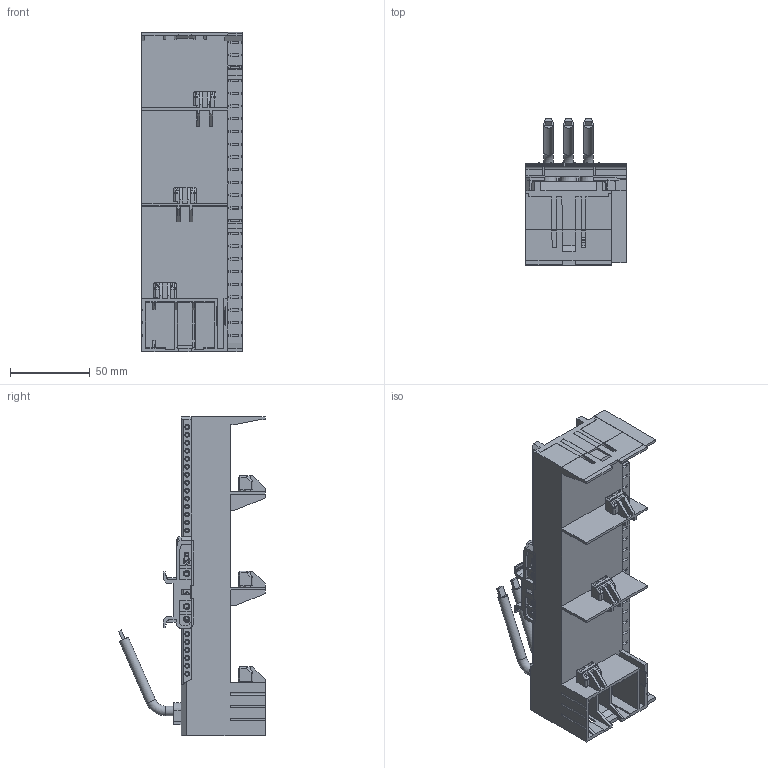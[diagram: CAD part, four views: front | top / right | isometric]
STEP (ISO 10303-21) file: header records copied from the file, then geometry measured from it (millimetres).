
FILE_DESCRIPTION (( 'STEP AP203' ), '1' );
FILE_NAME ('55368.STEP', '2021-08-18T05:47:23', ( '' ), ( '' ), 'SwSTEP 2.0', 'SolidWorks 2017', '' );
FILE_SCHEMA (( 'CONFIG_CONTROL_DESIGN' ));
Products named in the file (2): 55368
Bounding box: 63.05 x 92.2 x 200.4 mm (x, y, z)
Volume: 360708.6 mm3; surface area: 107170.2 mm2
Topology: 8 solids, 25 shells, 1994 faces, 5455 edges, 3640 vertices
Faces by surface type: plane 1407, cylinder 352, cone 163, bspline 69, torus 3
Full cylindrical faces by diameter (mm): 1.988 x130, 2.6 x14, 2.982 x6, 3.479 x4, 4.2 x2, 5.169 x2, 5.964 x7, 6 x6
Entity records: 81018 total; most frequent: CARTESIAN_POINT 33615, ORIENTED_EDGE 9968, DIRECTION 8670, EDGE_CURVE 4984, LINE 3554, VECTOR 3554, VERTEX_POINT 3498, AXIS2_PLACEMENT_3D 2558
